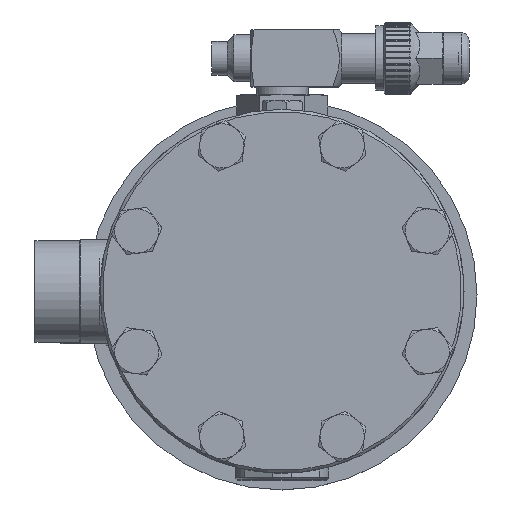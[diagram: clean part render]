
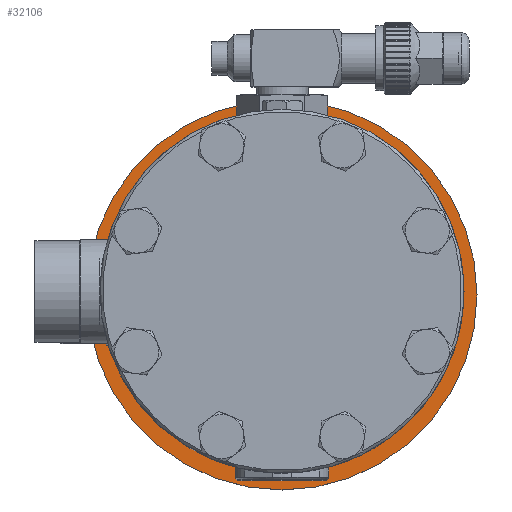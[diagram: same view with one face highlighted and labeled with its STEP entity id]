
A CAD part, top view. The second image highlights one B-rep face of the part: STEP entity #32106.
In plain terms, the highlighted planar face has unit normal (0, 0, 1).
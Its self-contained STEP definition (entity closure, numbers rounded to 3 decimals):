
#7229=FACE_BOUND('',#9617,.T.);
#7230=FACE_BOUND('',#9618,.T.);
#7231=FACE_BOUND('',#9619,.T.);
#7232=FACE_BOUND('',#9620,.T.);
#7233=FACE_BOUND('',#9621,.T.);
#7628=FACE_OUTER_BOUND('',#9616,.T.);
#9616=EDGE_LOOP('',(#21356));
#9617=EDGE_LOOP('',(#21357));
#9618=EDGE_LOOP('',(#21358));
#9619=EDGE_LOOP('',(#21359));
#9620=EDGE_LOOP('',(#21360));
#9621=EDGE_LOOP('',(#21361));
#11910=CIRCLE('',#34122,75.);
#11911=CIRCLE('',#34124,5.5);
#11912=CIRCLE('',#34126,5.5);
#11913=CIRCLE('',#34128,5.5);
#11914=CIRCLE('',#34130,5.5);
#11916=CIRCLE('',#34134,32.342);
#12903=VERTEX_POINT('',#45177);
#12904=VERTEX_POINT('',#45180);
#12905=VERTEX_POINT('',#45183);
#12906=VERTEX_POINT('',#45186);
#12907=VERTEX_POINT('',#45189);
#12909=VERTEX_POINT('',#45195);
#16295=EDGE_CURVE('',#12903,#12903,#11910,.T.);
#16296=EDGE_CURVE('',#12904,#12904,#11911,.T.);
#16297=EDGE_CURVE('',#12905,#12905,#11912,.T.);
#16298=EDGE_CURVE('',#12906,#12906,#11913,.T.);
#16299=EDGE_CURVE('',#12907,#12907,#11914,.T.);
#16301=EDGE_CURVE('',#12909,#12909,#11916,.T.);
#21356=ORIENTED_EDGE('',*,*,#16295,.F.);
#21357=ORIENTED_EDGE('',*,*,#16301,.T.);
#21358=ORIENTED_EDGE('',*,*,#16296,.T.);
#21359=ORIENTED_EDGE('',*,*,#16297,.T.);
#21360=ORIENTED_EDGE('',*,*,#16298,.T.);
#21361=ORIENTED_EDGE('',*,*,#16299,.T.);
#31121=PLANE('',#34133);
#32106=ADVANCED_FACE('',(#7628,#7229,#7230,#7231,#7232,#7233),#31121,.F.);
#34122=AXIS2_PLACEMENT_3D('',#45178,#37128,#37129);
#34124=AXIS2_PLACEMENT_3D('',#45181,#37132,#37133);
#34126=AXIS2_PLACEMENT_3D('',#45184,#37136,#37137);
#34128=AXIS2_PLACEMENT_3D('',#45187,#37140,#37141);
#34130=AXIS2_PLACEMENT_3D('',#45190,#37144,#37145);
#34133=AXIS2_PLACEMENT_3D('',#45194,#37150,#37151);
#34134=AXIS2_PLACEMENT_3D('',#45196,#37152,#37153);
#37128=DIRECTION('center_axis',(0.,0.,
-1.));
#37129=DIRECTION('ref_axis',(1.,0.,0.));
#37132=DIRECTION('center_axis',(0.,0.,
-1.));
#37133=DIRECTION('ref_axis',(-1.,0.,0.));
#37136=DIRECTION('center_axis',(0.,0.,
-1.));
#37137=DIRECTION('ref_axis',(0.,-1.,0.));
#37140=DIRECTION('center_axis',(0.,0.,
-1.));
#37141=DIRECTION('ref_axis',(1.,0.,0.));
#37144=DIRECTION('center_axis',(0.,0.,
-1.));
#37145=DIRECTION('ref_axis',(0.,1.,0.));
#37150=DIRECTION('center_axis',(0.,0.,
-1.));
#37151=DIRECTION('ref_axis',(1.,0.,0.));
#37152=DIRECTION('center_axis',(0.,0.,
-1.));
#37153=DIRECTION('ref_axis',(-1.,0.,0.));
#45177=CARTESIAN_POINT('',(-80.,0.,-507.225));
#45178=CARTESIAN_POINT('Origin',(-5.,0.,-507.225));
#45180=CARTESIAN_POINT('',(-70.5,0.,-507.225));
#45181=CARTESIAN_POINT('Origin',(-65.,0.,-507.225));
#45183=CARTESIAN_POINT('',(-5.,-65.5,-507.225));
#45184=CARTESIAN_POINT('Origin',(-5.,-60.,-507.225));
#45186=CARTESIAN_POINT('',(60.5,0.,-507.225));
#45187=CARTESIAN_POINT('Origin',(55.,0.,-507.225));
#45189=CARTESIAN_POINT('',(-5.,65.5,-507.225));
#45190=CARTESIAN_POINT('Origin',(-5.,60.,-507.225));
#45194=CARTESIAN_POINT('Origin',(-5.,0.,-507.225));
#45195=CARTESIAN_POINT('',(-5.,32.342,-507.225));
#45196=CARTESIAN_POINT('Origin',(-5.,0.,-507.225));
